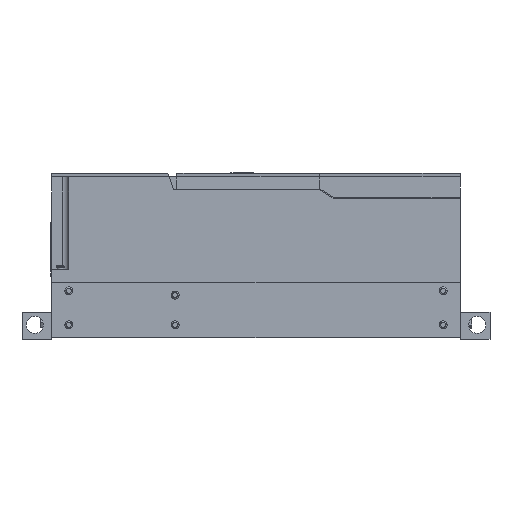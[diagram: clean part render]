
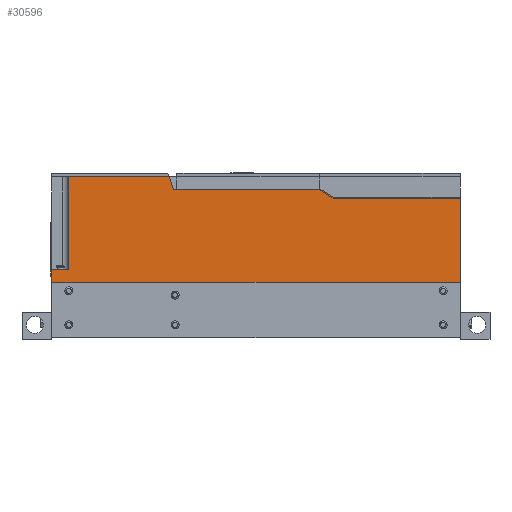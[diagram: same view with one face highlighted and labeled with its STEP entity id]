
A CAD part, left-side view. The second image highlights one B-rep face of the part: STEP entity #30596.
In plain terms, the highlighted planar face has unit normal (-1, 0, 0).
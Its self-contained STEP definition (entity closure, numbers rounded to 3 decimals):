
#3787=DIRECTION('',(0.,0.,-1.));
#3788=VECTOR('',#3787,15.);
#3789=CARTESIAN_POINT('',(-162.5,240.,79.8));
#3790=LINE('',#3789,#3788);
#4311=DIRECTION('',(0.,1.,0.));
#4312=VECTOR('',#4311,480.);
#4313=CARTESIAN_POINT('',(-162.5,-240.,64.8));
#4314=LINE('',#4313,#4312);
#4445=DIRECTION('',(0.,1.,0.));
#4446=VECTOR('',#4445,173.022);
#4447=CARTESIAN_POINT('',(-162.5,-76.387,173.9));
#4448=LINE('',#4447,#4446);
#8866=DIRECTION('',(0.,-1.,0.));
#8867=VECTOR('',#8866,117.905);
#8868=CARTESIAN_POINT('',(-162.5,220.,188.9));
#8869=LINE('',#8868,#8867);
#9146=DIRECTION('',(0.,1.,0.));
#9147=VECTOR('',#9146,149.213);
#9148=CARTESIAN_POINT('',(-162.5,-240.,164.9));
#9149=LINE('',#9148,#9147);
#9150=DIRECTION('',(0.,0.,-1.));
#9151=VECTOR('',#9150,100.1);
#9152=CARTESIAN_POINT('',(-162.5,-240.,164.9));
#9153=LINE('',#9152,#9151);
#9154=DIRECTION('',(0.,-1.,0.));
#9155=VECTOR('',#9154,20.);
#9156=CARTESIAN_POINT('',(-162.5,240.,79.8));
#9157=LINE('',#9156,#9155);
#9158=DIRECTION('',(0.,0.,-1.));
#9159=VECTOR('',#9158,109.1);
#9160=CARTESIAN_POINT('',(-162.5,220.,188.9));
#9161=LINE('',#9160,#9159);
#9162=DIRECTION('',(0.,-0.342,-0.94));
#9163=VECTOR('',#9162,15.963);
#9164=CARTESIAN_POINT('',(-162.5,102.095,188.9));
#9165=LINE('',#9164,#9163);
#9166=DIRECTION('',(0.,-0.848,-0.53));
#9167=VECTOR('',#9166,16.981);
#9168=CARTESIAN_POINT('',(-162.5,-76.387,173.9));
#9169=LINE('',#9168,#9167);
#14750=CARTESIAN_POINT('',(-162.5,240.,79.8));
#14751=CARTESIAN_POINT('',(-162.5,220.,79.8));
#14752=VERTEX_POINT('',#14750);
#14753=VERTEX_POINT('',#14751);
#14754=CARTESIAN_POINT('',(-162.5,220.,188.9));
#14755=VERTEX_POINT('',#14754);
#14780=CARTESIAN_POINT('',(-162.5,-240.,64.8));
#14781=CARTESIAN_POINT('',(-162.5,240.,64.8));
#14782=VERTEX_POINT('',#14780);
#14783=VERTEX_POINT('',#14781);
#14790=CARTESIAN_POINT('',(-162.5,102.095,188.9));
#14791=CARTESIAN_POINT('',(-162.5,96.636,173.9));
#14792=VERTEX_POINT('',#14790);
#14793=VERTEX_POINT('',#14791);
#15204=CARTESIAN_POINT('',(-162.5,-240.,164.9));
#15205=CARTESIAN_POINT('',(-162.5,-90.787,164.9));
#15206=VERTEX_POINT('',#15204);
#15207=VERTEX_POINT('',#15205);
#15208=CARTESIAN_POINT('',(-162.5,-76.387,173.9));
#15209=VERTEX_POINT('',#15208);
#30577=CARTESIAN_POINT('',(-162.5,240.,74.8));
#30578=DIRECTION('',(-1.,0.,0.));
#30579=DIRECTION('',(0.,-1.,0.));
#30580=AXIS2_PLACEMENT_3D('',#30577,#30578,#30579);
#30581=PLANE('',#30580);
#30583=ORIENTED_EDGE('',*,*,#30582,.F.);
#30584=ORIENTED_EDGE('',*,*,#21930,.T.);
#30585=ORIENTED_EDGE('',*,*,#23457,.T.);
#30586=ORIENTED_EDGE('',*,*,#22843,.F.);
#30587=ORIENTED_EDGE('',*,*,#30436,.T.);
#30588=ORIENTED_EDGE('',*,*,#30571,.F.);
#30589=ORIENTED_EDGE('',*,*,#30093,.T.);
#30590=ORIENTED_EDGE('',*,*,#30029,.T.);
#30591=ORIENTED_EDGE('',*,*,#23649,.F.);
#30593=ORIENTED_EDGE('',*,*,#30592,.T.);
#30594=EDGE_LOOP('',(#30583,#30584,#30585,#30586,#30587,#30588,#30589,#30590,
#30591,#30593));
#30595=FACE_OUTER_BOUND('',#30594,.F.);
#30596=ADVANCED_FACE('',(#30595),#30581,.T.);
#21930=EDGE_CURVE('',#15206,#14782,#9153,.T.);
#22843=EDGE_CURVE('',#14752,#14783,#3790,.T.);
#23457=EDGE_CURVE('',#14782,#14783,#4314,.T.);
#23649=EDGE_CURVE('',#15209,#14793,#4448,.T.);
#30029=EDGE_CURVE('',#14792,#14793,#9165,.T.);
#30093=EDGE_CURVE('',#14755,#14792,#8869,.T.);
#30436=EDGE_CURVE('',#14752,#14753,#9157,.T.);
#30571=EDGE_CURVE('',#14755,#14753,#9161,.T.);
#30582=EDGE_CURVE('',#15206,#15207,#9149,.T.);
#30592=EDGE_CURVE('',#15209,#15207,#9169,.T.);
